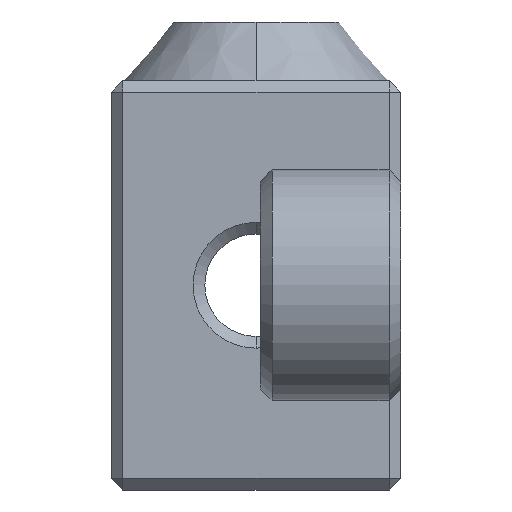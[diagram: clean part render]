
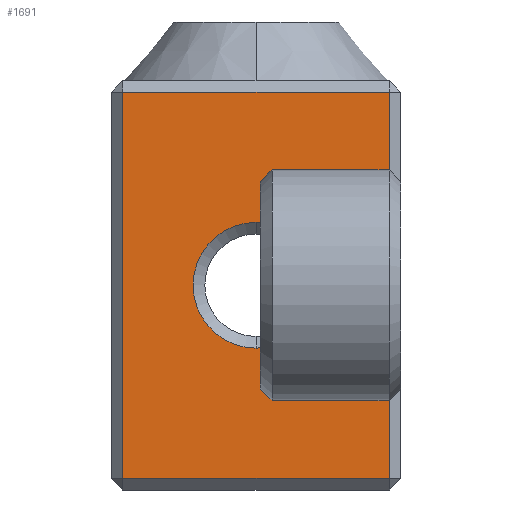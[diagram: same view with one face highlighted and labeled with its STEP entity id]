
A CAD part, left-side view. The second image highlights one B-rep face of the part: STEP entity #1691.
In plain terms, the highlighted planar face has unit normal (-1, 0, 0).
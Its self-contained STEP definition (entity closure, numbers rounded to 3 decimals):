
#80 = DIRECTION ( 'NONE',  ( 0., 0., -1. ) ) ;
#128 = ORIENTED_EDGE ( 'NONE', *, *, #836, .T. ) ;
#147 = CIRCLE ( 'NONE', #553, 2.15 ) ;
#287 = EDGE_CURVE ( 'NONE', #1949, #1937, #1826, .T. ) ;
#292 = DIRECTION ( 'NONE',  ( 0., 0., 1. ) ) ;
#330 = LINE ( 'NONE', #1568, #1760 ) ;
#375 = CARTESIAN_POINT ( 'NONE',  ( 0., 4.95, 4.85 ) ) ;
#434 = CARTESIAN_POINT ( 'NONE',  ( 0., 4.95, 9.15 ) ) ;
#444 = VECTOR ( 'NONE', #2035, 1000. ) ;
#471 = CARTESIAN_POINT ( 'NONE',  ( 0., 9.5, 3. ) ) ;
#476 = VECTOR ( 'NONE', #1070, 1000. ) ;
#485 = DIRECTION ( 'NONE',  ( 1., 0., 0. ) ) ;
#553 = AXIS2_PLACEMENT_3D ( 'NONE', #1573, #485, #1738 ) ;
#555 = FACE_BOUND ( 'NONE', #1362, .T. ) ;
#664 = DIRECTION ( 'NONE',  ( 1., 0., 0. ) ) ;
#809 = EDGE_CURVE ( 'NONE', #1015, #1208, #1439, .T. ) ;
#820 = VECTOR ( 'NONE', #2191, 1000. ) ;
#829 = EDGE_CURVE ( 'NONE', #1495, #1949, #887, .T. ) ;
#836 = EDGE_CURVE ( 'NONE', #1266, #1495, #2115, .T. ) ;
#843 = EDGE_CURVE ( 'NONE', #1937, #1266, #330, .T. ) ;
#887 = LINE ( 'NONE', #471, #444 ) ;
#1015 = VERTEX_POINT ( 'NONE', #375 ) ;
#1038 = CARTESIAN_POINT ( 'NONE',  ( 0., 9.5, 13.6 ) ) ;
#1070 = DIRECTION ( 'NONE',  ( 0., -1., 0. ) ) ;
#1085 = CARTESIAN_POINT ( 'NONE',  ( 0., 0., 0.4 ) ) ;
#1208 = VERTEX_POINT ( 'NONE', #434 ) ;
#1266 = VERTEX_POINT ( 'NONE', #1399 ) ;
#1267 = DIRECTION ( 'NONE',  ( 1., 0., 0. ) ) ;
#1307 = EDGE_CURVE ( 'NONE', #1208, #1015, #147, .T. ) ;
#1362 = EDGE_LOOP ( 'NONE', ( #2274, #1916 ) ) ;
#1399 = CARTESIAN_POINT ( 'NONE',  ( 0., 0.4, 13.6 ) ) ;
#1419 = CARTESIAN_POINT ( 'NONE',  ( 0., 9.9, 13.6 ) ) ;
#1439 = CIRCLE ( 'NONE', #1654, 2.15 ) ;
#1448 = CARTESIAN_POINT ( 'NONE',  ( 0., 0., 3. ) ) ;
#1495 = VERTEX_POINT ( 'NONE', #1038 ) ;
#1568 = CARTESIAN_POINT ( 'NONE',  ( 0., 0.4, 3. ) ) ;
#1573 = CARTESIAN_POINT ( 'NONE',  ( 0., 4.95, 7. ) ) ;
#1605 = PLANE ( 'NONE',  #2239 ) ;
#1634 = ORIENTED_EDGE ( 'NONE', *, *, #287, .T. ) ;
#1654 = AXIS2_PLACEMENT_3D ( 'NONE', #2259, #664, #80 ) ;
#1691 = ADVANCED_FACE ( 'NONE', ( #1950, #555 ), #1605, .F. ) ;
#1738 = DIRECTION ( 'NONE',  ( 0., 0., -1. ) ) ;
#1760 = VECTOR ( 'NONE', #292, 1000. ) ;
#1768 = DIRECTION ( 'NONE',  ( 0., 0., -1. ) ) ;
#1794 = CARTESIAN_POINT ( 'NONE',  ( 0., 9.5, 0.4 ) ) ;
#1826 = LINE ( 'NONE', #1085, #476 ) ;
#1916 = ORIENTED_EDGE ( 'NONE', *, *, #809, .T. ) ;
#1937 = VERTEX_POINT ( 'NONE', #2273 ) ;
#1949 = VERTEX_POINT ( 'NONE', #1794 ) ;
#1950 = FACE_OUTER_BOUND ( 'NONE', #2164, .T. ) ;
#2035 = DIRECTION ( 'NONE',  ( 0., 0., -1. ) ) ;
#2053 = ORIENTED_EDGE ( 'NONE', *, *, #843, .T. ) ;
#2115 = LINE ( 'NONE', #1419, #820 ) ;
#2164 = EDGE_LOOP ( 'NONE', ( #1634, #2053, #128, #2295 ) ) ;
#2191 = DIRECTION ( 'NONE',  ( 0., 1., 0. ) ) ;
#2239 = AXIS2_PLACEMENT_3D ( 'NONE', #1448, #1267, #1768 ) ;
#2259 = CARTESIAN_POINT ( 'NONE',  ( 0., 4.95, 7. ) ) ;
#2273 = CARTESIAN_POINT ( 'NONE',  ( 0., 0.4, 0.4 ) ) ;
#2274 = ORIENTED_EDGE ( 'NONE', *, *, #1307, .T. ) ;
#2295 = ORIENTED_EDGE ( 'NONE', *, *, #829, .T. ) ;
